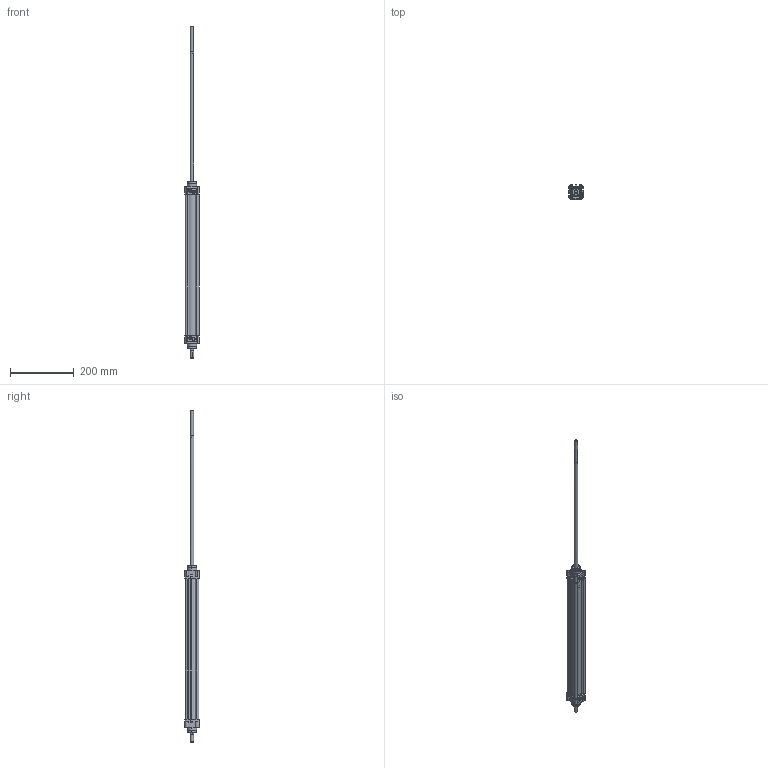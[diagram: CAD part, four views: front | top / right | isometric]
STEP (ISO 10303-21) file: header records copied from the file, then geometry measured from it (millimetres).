
FILE_DESCRIPTION (( 'STEP AP203' ), '1' );
FILE_NAME ('KDNT32X400CIFTMILLI-STROK AYARLI-CYLINDER.STEP', '2015-03-24T08:04:24', ( 'user' ), ( '' ), 'SwSTEP 2.0', 'SolidWorks 2013', '' );
FILE_SCHEMA (( 'CONFIG_CONTROL_DESIGN' ));
Length unit declared in the file: millimetre
Products named in the file (6): 烰 KAPAK; ORTA PÝSTON ÇÝFT MÝLLÝ; KDNT Piston Mili 32X400; KDNT 32x400 BORU; SAPLAMALI M尳 STROK AYARLI 32x400; KDNT32X400CIFTMILLI-STROK AYARLI-CYLINDER
Assembly tree (6 placements, depth 2):
  KDNT32X400CIFTMILLI-STROK AYARLI-CYLINDER
    烰 KAPAK  x2
    ORTA PÝSTON ÇÝFT MÝLLÝ
    KDNT Piston Mili 32X400
    KDNT 32x400 BORU
    SAPLAMALI M尳 STROK AYARLI 32x400
Bounding box: 44.45 x 44.65 x 1043 mm (x, y, z)
Volume: 450142 mm3; surface area: 249843.9 mm2
Topology: 8 solids, 10 shells, 776 faces, 1931 edges, 1210 vertices
Faces by surface type: cylinder 285, plane 206, cone 149, bspline 136
Entity records: 20774 total; most frequent: CARTESIAN_POINT 8851, ORIENTED_EDGE 2428, DIRECTION 2265, EDGE_CURVE 1214, AXIS2_PLACEMENT_3D 878, VERTEX_POINT 770, EDGE_LOOP 560, LINE 509
